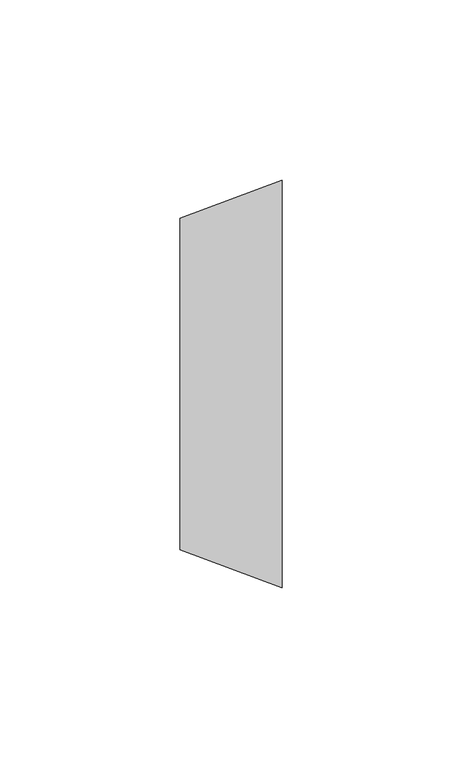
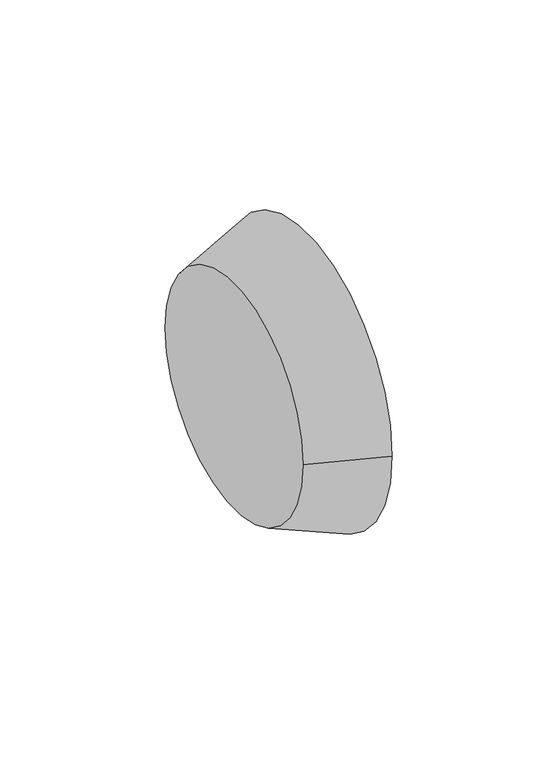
"""IFC4 building model written with IfcOpenShell, lengths in millimetres: pipe fitting geometry, M_Transición - Genérica : Estándar."""

from ifc_helpers import new_model, si_unit, frame, origin, place, context, project, spatial, polyline, circle_curve, source, transform, mapped, element, save
from ifc_brep_helpers import plane_surface, revolved_surface, advanced_brep


def pipe_fitting_4282e78d(model_context):
    return source(origin(), model_context, "Body", "AdvancedBrep", [
        advanced_brep(
        [(28.29375, -56.5875, 0.0), (28.29375, 56.5875, 0.0), (0.0, -46.0375, 0.0), (0.0, 46.0375, 0.0)],
        [
            (0, 1, circle_curve(frame((28.29375, 0.0, 0.0), z_axis=(1.0, 0.0, 0.0), x_axis=(0.0, -1.0, 0.0)), 56.5875)),
            (1, 0, circle_curve(frame((28.29375, 0.0, 0.0), z_axis=(1.0, 0.0, 0.0), x_axis=(0.0, 1.0, 0.0)), 56.5875)),
            (2, 3, circle_curve(frame((0.0, 0.0, 0.0), z_axis=(-1.0, 0.0, 0.0), x_axis=(0.0, 1.0, 0.0)), 46.0375)),
            (3, 2, circle_curve(frame((0.0, 0.0, 0.0), z_axis=(-1.0, 0.0, 0.0), x_axis=(0.0, -1.0, 0.0)), 46.0375)),
            (3, 1),
            (0, 2),
        ],
        [
            plane_surface(frame((28.29375, 0.0, 0.0), z_axis=(1.0, 0.0, 0.0), x_axis=(0.0, 0.0, -1.0))),
            plane_surface(frame((0.0, 0.0, 0.0), z_axis=(-1.0, 0.0, 0.0), x_axis=(0.0, 0.0, -1.0))),
            revolved_surface(polyline([(0.0, 46.03749999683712, 0.0), (28.293750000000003, 56.5875, 0.0)]), (-123.4666839, 0.0, 0.0), (1.0, 0.0, 0.0)),
            revolved_surface(polyline([(0.0, -46.03749999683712, 0.0), (28.293750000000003, -56.5875, 0.0)]), (-123.4666839, 0.0, 0.0), (1.0, 0.0, 0.0)),
        ],
        [
            (0, [[1, 2]]),
            (1, [[3, 4]]),
            (2, [[-4, 5, -1, 6]]),
            (3, [[-3, -6, -2, -5]]),
        ],
    ),
    ])


if __name__ == "__main__":
    model = new_model("IFC4")
    model_context = context("Model", 3, world=origin())
    ifc_project = project(units=[si_unit("LENGTHUNIT", "METRE", prefix="MILLI")], contexts=[model_context])
    site = spatial("IfcSite", under=ifc_project)
    building = spatial("IfcBuilding", under=site)
    placement = place(None, origin())
    pipe_fitting_shape = pipe_fitting_4282e78d(model_context)
    element("IfcPipeFitting", 1, ObjectType="M_Transición - Genérica : Estándar", at=placement, inside=building, context=model_context, shape_type="MappedRepresentation", body=[
        mapped(pipe_fitting_shape, transform((0.0, 0.0, 0.0), x_axis=(1.0, 0.0, 0.0), y_axis=(0.0, 1.0, 0.0), z_axis=(0.0, 0.0, 1.0))),
    ])
    save(model, "model.ifc")
